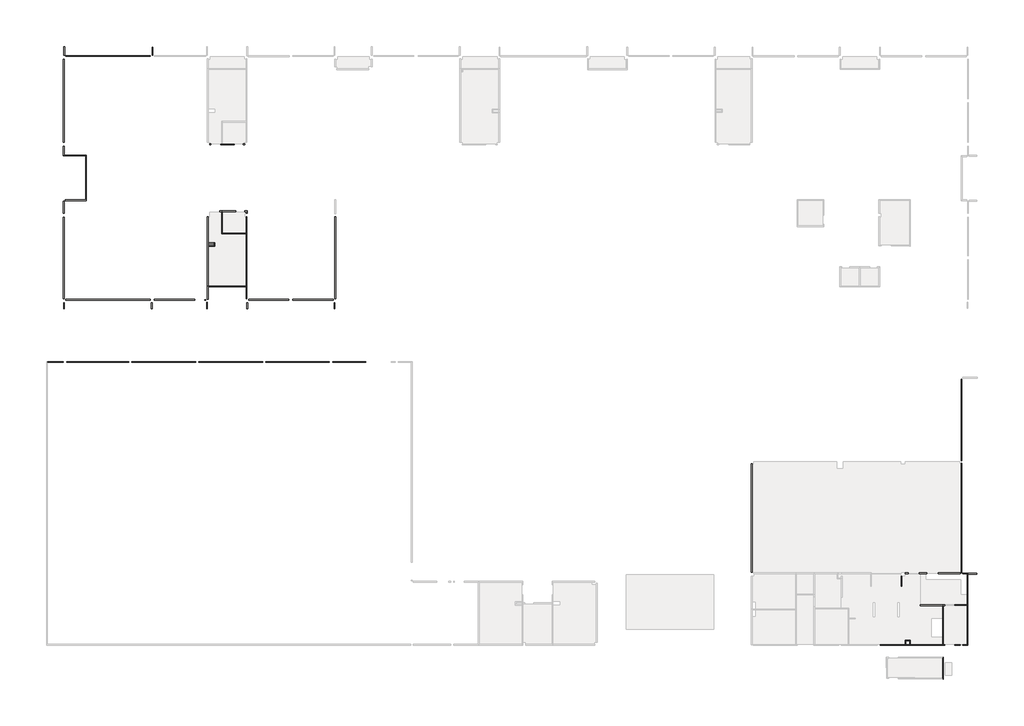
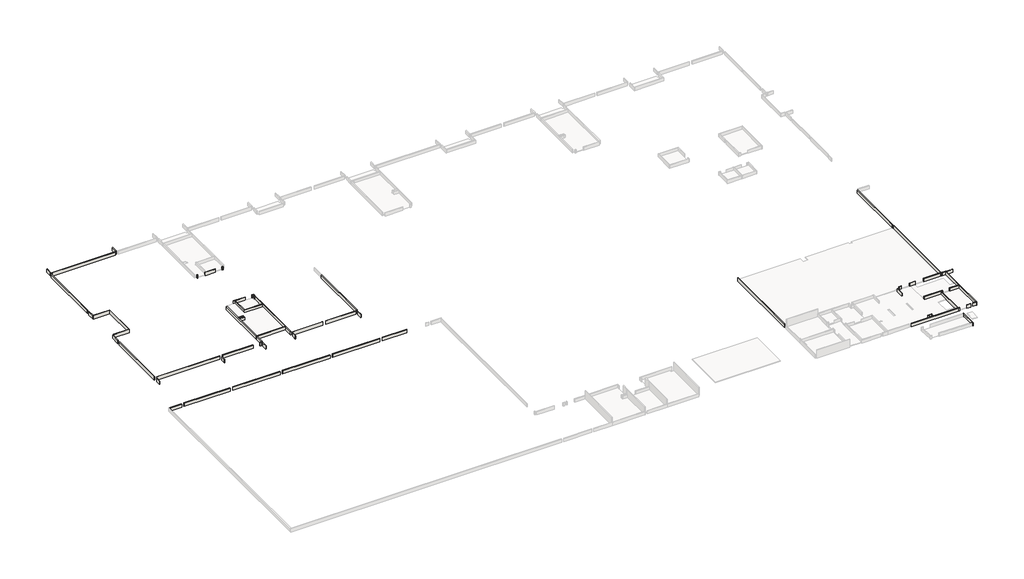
# One storey, part 2 of 4: 67 walls.
"""IFC4 building model written with IfcOpenShell, lengths in millimetres."""

from ifc_helpers import new_model, si_unit, frame, origin, place, context, project, spatial, polyline, outline, extrude, faceted_brep, element, save

model = new_model("IFC4")

# Units and contexts
model_context = context("Model", 3, world=origin())
ifc_project = project(units=[si_unit("LENGTHUNIT", "METRE", prefix="MILLI")], contexts=[model_context])

# Site, building, storey
site = spatial("IfcSite", under=ifc_project)
building = spatial("IfcBuilding", under=site)
storey = spatial("IfcBuildingStorey", under=building, Name="PLANTA DE IMPERMEABILIZAÇÃO - TERREO", Elevation=52050.0)

# Walls
placement = place(None, origin())
element("IfcWall", 1, ObjectType="Áreas frias", at=placement, inside=storey, context=model_context, shape_type="SweptSolid", body=[
    extrude(outline(polyline([(-41831.0467035, 21873.9418221), (-41706.0467035, 21873.9418221), (-41706.0467035, 21808.9418221), (-41831.0467035, 21808.9418221), (-41831.0467035, 21873.9418221)])), frame((0.0, 0.0, 52050.0), z_axis=(0.0, 0.0, 1.0), x_axis=(1.0, 0.0, 0.0)), (0.0, 0.0, 1.0), 400.0),
])
element("IfcWall", 2, ObjectType="Áreas frias", at=placement, inside=storey, context=model_context, shape_type="Brep", body=[
    faceted_brep([(-42651.0467035, 21869.3823991, 52050.0), (-43727.9504459, 21869.3823991, 52050.0), (-43792.9504459, 21869.3823991, 52050.0), (-43884.549875, 21869.3823991, 52050.0), (-43884.549875, 21869.3823991, 52450.0), (-43792.9504459, 21869.3823991, 52450.0), (-43727.9504459, 21869.3823991, 52450.0), (-42651.0467035, 21869.3823991, 52450.0), (-42651.0467035, 21804.3823991, 52050.0), (-42651.0467035, 21804.3823991, 52450.0), (-43884.549875, 21804.3823991, 52450.0), (-43884.549875, 21804.3823991, 52050.0)], [[[0, 1, 2, 3, 4, 5, 6, 7]], [[8, 9, 10, 11]], [[3, 2, 1, 0, 8, 11]], [[4, 3, 11, 10]], [[7, 6, 5, 4, 10, 9]], [[0, 7, 9, 8]]]),
])
element("IfcWall", 3, ObjectType="Áreas frias", at=placement, inside=storey, context=model_context, shape_type="SweptSolid", body=[
    extrude(outline(polyline([(-44784.549875, 21808.9418221), (-44868.0467035, 21808.9418221), (-44868.0467035, 21873.9418221), (-44784.549875, 21873.9418221), (-44784.549875, 21808.9418221)])), frame((0.0, 0.0, 52050.0), z_axis=(0.0, 0.0, 1.0), x_axis=(1.0, 0.0, 0.0)), (0.0, 0.0, 1.0), 400.0),
])
element("IfcWall", 4, ObjectType="Áreas frias", at=placement, inside=storey, context=model_context, shape_type="SweptSolid", body=[
    extrude(outline(polyline([(22860.1540592, -6671.1176009), (22860.1540592, 659.8823991), (22925.1540592, 659.8823991), (22925.1540592, -6671.1176009), (22860.1540592, -6671.1176009)])), frame((0.0, 0.0, 52050.0), z_axis=(0.0, 0.0, 1.0), x_axis=(1.0, 0.0, 0.0)), (0.0, 0.0, 1.0), 400.0),
])
element("IfcWall", 5, ObjectType="Áreas frias", at=placement, inside=storey, context=model_context, shape_type="SweptSolid", body=[
    extrude(outline(polyline([(22860.450125, -16781.1176009), (22860.450125, -6915.1176009), (22925.450125, -6915.1176009), (22925.450125, -16781.1176009), (22860.450125, -16781.1176009)])), frame((0.0, 0.0, 52050.0), z_axis=(0.0, 0.0, 1.0), x_axis=(1.0, 0.0, 0.0)), (0.0, 0.0, 1.0), 400.0),
])
element("IfcWall", 6, ObjectType="Áreas frias", at=placement, inside=storey, context=model_context, shape_type="Brep", body=[
    faceted_brep([(24287.0605113, -16830.6176009, 52050.0), (23446.950125, -16830.6176009, 52050.0), (23446.950125, -16830.6176009, 52450.0), (24287.0605113, -16830.6176009, 52450.0), (24287.0605113, -16895.6176009, 52050.0), (24287.0605113, -16895.6176009, 52450.0), (23479.450125, -16895.6176009, 52450.0), (23446.950125, -16895.6176009, 52450.0), (23446.950125, -16895.6176009, 52050.0), (23479.450125, -16895.6176009, 52050.0), (23446.950125, -16863.1176009, 52050.0), (23446.950125, -16863.1176009, 52450.0)], [[[0, 1, 2, 3]], [[4, 5, 6, 7, 8, 9]], [[1, 0, 4, 9, 8, 10]], [[2, 1, 10, 8, 7, 11]], [[3, 2, 11, 7, 6, 5]], [[0, 3, 5, 4]]]),
])
element("IfcWall", 7, ObjectType="Áreas frias", at=placement, inside=storey, context=model_context, shape_type="Brep", body=[
    faceted_brep([(23016.450125, -16863.1176009, 52050.0), (23414.450125, -16863.1176009, 52050.0), (23446.950125, -16863.1176009, 52050.0), (23446.950125, -16863.1176009, 52450.0), (23414.450125, -16863.1176009, 52450.0), (23016.450125, -16863.1176009, 52450.0), (23016.450125, -16798.1176009, 52050.0), (23016.450125, -16798.1176009, 52450.0), (23446.950125, -16798.1176009, 52450.0), (23446.950125, -16798.1176009, 52050.0), (23446.950125, -16830.6176009, 52050.0), (23446.950125, -16830.6176009, 52450.0)], [[[0, 1, 2, 3, 4, 5]], [[6, 7, 8, 9]], [[2, 1, 0, 6, 9, 10]], [[3, 2, 10, 9, 8, 11]], [[5, 4, 3, 11, 8, 7]], [[0, 5, 7, 6]]]),
])
element("IfcWall", 8, ObjectType="Áreas frias", at=placement, inside=storey, context=model_context, shape_type="Brep", body=[
    faceted_brep([(23414.450125, -16863.1176009, 52050.0), (23414.450125, -19638.4448373, 52050.0), (23414.450125, -19670.9448373, 52050.0), (23414.450125, -19670.9448373, 52450.0), (23414.450125, -19638.4448373, 52450.0), (23414.450125, -16863.1176009, 52450.0), (23479.450125, -16895.6176009, 52050.0), (23479.450125, -16895.6176009, 52450.0), (23479.450125, -19670.9448373, 52450.0), (23479.450125, -19670.9448373, 52050.0), (23446.950125, -16863.1176009, 52050.0), (23446.950125, -16895.6176009, 52050.0), (23446.950125, -16895.6176009, 52450.0), (23446.950125, -16863.1176009, 52450.0)], [[[0, 1, 2, 3, 4, 5]], [[6, 7, 8, 9]], [[2, 1, 0, 10, 11, 6, 9]], [[3, 2, 9, 8]], [[5, 4, 3, 8, 7, 12, 13]], [[0, 5, 13, 10]], [[13, 12, 11, 10]], [[12, 7, 6, 11]]]),
])
element("IfcWall", 9, ObjectType="Áreas frias", at=placement, inside=storey, context=model_context, shape_type="SweptSolid", body=[
    extrude(outline(polyline([(23016.450125, -23245.6176009), (23414.450125, -23245.6176009), (23414.450125, -23310.6176009), (23016.450125, -23310.6176009), (23016.450125, -23245.6176009)])), frame((0.0, 0.0, 52050.0), z_axis=(0.0, 0.0, 1.0), x_axis=(1.0, 0.0, 0.0)), (0.0, 0.0, 1.0), 400.0),
])
element("IfcWall", 10, ObjectType="Áreas frias", at=placement, inside=storey, context=model_context, shape_type="SweptSolid", body=[
    extrude(outline(polyline([(22269.450125, -23245.6176009), (22769.450125, -23245.6176009), (22769.450125, -23310.6176009), (22269.450125, -23310.6176009), (22269.450125, -23245.6176009)])), frame((0.0, 0.0, 52050.0), z_axis=(0.0, 0.0, 1.0), x_axis=(1.0, 0.0, 0.0)), (0.0, 0.0, 1.0), 400.0),
])
element("IfcWall", 11, ObjectType="Áreas frias", at=placement, inside=storey, context=model_context, shape_type="SweptSolid", body=[
    extrude(outline(polyline([(21260.1268114, -23245.6176009), (21400.1268114, -23245.6176009), (21400.1268114, -23310.6176009), (21260.1268114, -23310.6176009), (21260.1268114, -23245.6176009)])), frame((0.0, 0.0, 52050.0), z_axis=(0.0, 0.0, 1.0), x_axis=(1.0, 0.0, 0.0)), (0.0, 0.0, 1.0), 400.0),
])
element("IfcWall", 12, ObjectType="Áreas frias", at=placement, inside=storey, context=model_context, shape_type="SweptSolid", body=[
    extrude(outline(polyline([(21257.6268114, -19718.4448373), (21257.6268114, -23245.6176009), (21192.6268114, -23245.6176009), (21192.6268114, -19718.4448373), (21257.6268114, -19718.4448373)])), frame((0.0, 0.0, 52050.0), z_axis=(0.0, 0.0, 1.0), x_axis=(1.0, 0.0, 0.0)), (0.0, 0.0, 1.0), 400.0),
])
element("IfcWall", 13, ObjectType="Áreas frias", at=placement, inside=storey, context=model_context, shape_type="Brep", body=[
    faceted_brep([(19164.450125, -19718.4448373, 52050.0), (21192.6268114, -19718.4448373, 52050.0), (21257.6268114, -19718.4448373, 52050.0), (21404.450125, -19718.4448373, 52050.0), (21404.450125, -19718.4448373, 52450.0), (21257.6268114, -19718.4448373, 52450.0), (21192.6268114, -19718.4448373, 52450.0), (19164.450125, -19718.4448373, 52450.0), (19164.450125, -19653.4448373, 52050.0), (19164.450125, -19653.4448373, 52450.0), (21404.450125, -19653.4448373, 52450.0), (21404.450125, -19653.4448373, 52050.0)], [[[0, 1, 2, 3, 4, 5, 6, 7]], [[8, 9, 10, 11]], [[3, 2, 1, 0, 8, 11]], [[4, 3, 11, 10]], [[7, 6, 5, 4, 10, 9]], [[0, 7, 9, 8]]]),
])
element("IfcWall", 14, ObjectType="Áreas frias", at=placement, inside=storey, context=model_context, shape_type="Brep", body=[
    faceted_brep([(22270.1268114, -19703.4448373, 52050.0), (23414.450125, -19703.4448373, 52050.0), (23414.450125, -19703.4448373, 52450.0), (22270.1268114, -19703.4448373, 52450.0), (22270.1268114, -19638.4448373, 52050.0), (22270.1268114, -19638.4448373, 52450.0), (23414.450125, -19638.4448373, 52450.0), (23414.450125, -19638.4448373, 52050.0), (23414.450125, -19670.9448373, 52050.0), (23414.450125, -19670.9448373, 52450.0)], [[[0, 1, 2, 3]], [[4, 5, 6, 7]], [[1, 0, 4, 7, 8]], [[3, 2, 9, 6, 5]], [[0, 3, 5, 4]], [[2, 1, 8, 7, 6, 9]]]),
])
element("IfcWall", 15, ObjectType="Áreas frias", at=placement, inside=storey, context=model_context, shape_type="SweptSolid", body=[
    extrude(outline(polyline([(20777.4501614, -16780.6176009), (22769.450125, -16780.6176009), (22769.450125, -16845.6176009), (20777.4501614, -16845.6176009), (20777.4501614, -16780.6176009)])), frame((0.0, 0.0, 52050.0), z_axis=(0.0, 0.0, 1.0), x_axis=(1.0, 0.0, 0.0)), (0.0, 0.0, 1.0), 400.0),
])
element("IfcWall", 16, ObjectType="Áreas frias", at=placement, inside=storey, context=model_context, shape_type="SweptSolid", body=[
    extrude(outline(polyline([(19064.450125, -16780.6176009), (19764.450125, -16780.6176009), (19764.450125, -16845.6176009), (19064.450125, -16845.6176009), (19064.450125, -16780.6176009)])), frame((0.0, 0.0, 52050.0), z_axis=(0.0, 0.0, 1.0), x_axis=(1.0, 0.0, 0.0)), (0.0, 0.0, 1.0), 400.0),
])
element("IfcWall", 17, ObjectType="Áreas frias", at=placement, inside=storey, context=model_context, shape_type="SweptSolid", body=[
    extrude(outline(polyline([(17814.4532965, -16778.1176009), (18077.4501614, -16778.1176009), (18077.4501614, -16843.1176009), (17814.4532965, -16843.1176009), (17814.4532965, -16778.1176009)])), frame((0.0, 0.0, 52050.0), z_axis=(0.0, 0.0, 1.0), x_axis=(1.0, 0.0, 0.0)), (0.0, 0.0, 1.0), 400.0),
])
element("IfcWall", 18, ObjectType="Áreas frias", at=placement, inside=storey, context=model_context, shape_type="SweptSolid", body=[
    extrude(outline(polyline([(17507.950125, -17078.2862782), (17507.950125, -17998.2862782), (17442.950125, -17998.2862782), (17442.950125, -17078.2862782), (17507.950125, -17078.2862782)])), frame((0.0, 0.0, 52050.0), z_axis=(0.0, 0.0, 1.0), x_axis=(1.0, 0.0, 0.0)), (0.0, 0.0, 1.0), 400.0),
])
element("IfcWall", 19, ObjectType="Áreas frias", at=placement, inside=storey, context=model_context, shape_type="SweptSolid", body=[
    extrude(outline(polyline([(3962.9532965, -16731.6176009), (3962.9532965, -6964.6176009), (4027.9532965, -6964.6176009), (4027.9532965, -16731.6176009), (3962.9532965, -16731.6176009)])), frame((0.0, 0.0, 52050.0), z_axis=(0.0, 0.0, 1.0), x_axis=(1.0, 0.0, 0.0)), (0.0, 0.0, 1.0), 400.0),
])
element("IfcWall", 20, ObjectType="Áreas frias", at=placement, inside=storey, context=model_context, shape_type="Brep", body=[
    faceted_brep([(21268.6897778, -26378.2878145, 52050.0), (21268.6897778, -24372.6344712, 52050.0), (21268.6897778, -24372.6344712, 52450.0), (21268.6897778, -26378.2878145, 52450.0), (21203.6897778, -26376.9940032, 52050.0), (21203.6897778, -26376.9940032, 52450.0), (21203.6897778, -26311.981128, 52450.0), (21203.6897778, -24437.6344712, 52450.0), (21203.6897778, -24372.6344712, 52450.0), (21203.6897778, -24372.6344712, 52050.0), (21203.6897778, -24437.6344712, 52050.0), (21203.6897778, -26311.981128, 52050.0)], [[[0, 1, 2, 3]], [[4, 5, 6, 7, 8, 9, 10, 11]], [[1, 0, 4, 11, 10, 9]], [[3, 2, 8, 7, 6, 5]], [[2, 1, 9, 8]], [[0, 3, 5, 4]]]),
])
element("IfcWall", 21, ObjectType="Áreas frias", at=placement, inside=storey, context=model_context, shape_type="SweptSolid", body=[
    extrude(outline(polyline([(-58057.2215023, 2201.8823991), (-59500.0498836, 2201.8823991), (-59500.0498836, 2266.8823991), (-58057.2215023, 2266.8823991), (-58057.2215023, 2201.8823991)])), frame((0.0, 0.0, 52050.0), z_axis=(0.0, 0.0, 1.0), x_axis=(1.0, 0.0, 0.0)), (0.0, 0.0, 1.0), 400.0),
])
element("IfcWall", 22, ObjectType="Áreas frias", at=placement, inside=storey, context=model_context, shape_type="SweptSolid", body=[
    extrude(outline(polyline([(-52173.9804353, 2201.8823991), (-57751.2215023, 2201.8823991), (-57751.2215023, 2266.8823991), (-52173.9804353, 2266.8823991), (-52173.9804353, 2201.8823991)])), frame((0.0, 0.0, 52050.0), z_axis=(0.0, 0.0, 1.0), x_axis=(1.0, 0.0, 0.0)), (0.0, 0.0, 1.0), 400.0),
])
element("IfcWall", 23, ObjectType="Áreas frias", at=placement, inside=storey, context=model_context, shape_type="SweptSolid", body=[
    extrude(outline(polyline([(-46137.9804353, 2189.3823991), (-51877.9804353, 2189.3823991), (-51877.9804353, 2254.3823991), (-46137.9804353, 2254.3823991), (-46137.9804353, 2189.3823991)])), frame((0.0, 0.0, 52050.0), z_axis=(0.0, 0.0, 1.0), x_axis=(1.0, 0.0, 0.0)), (0.0, 0.0, 1.0), 400.0),
])
element("IfcWall", 24, ObjectType="Áreas frias", at=placement, inside=storey, context=model_context, shape_type="SweptSolid", body=[
    extrude(outline(polyline([(-40095.4672223, 2189.3823991), (-45838.7252723, 2189.3823991), (-45838.7252723, 2254.3823991), (-40095.4672223, 2254.3823991), (-40095.4672223, 2189.3823991)])), frame((0.0, 0.0, 52050.0), z_axis=(0.0, 0.0, 1.0), x_axis=(1.0, 0.0, 0.0)), (0.0, 0.0, 1.0), 400.0),
])
element("IfcWall", 25, ObjectType="Áreas frias", at=placement, inside=storey, context=model_context, shape_type="SweptSolid", body=[
    extrude(outline(polyline([(-34066.2149623, 2189.3823991), (-39799.4672223, 2189.3823991), (-39799.4672223, 2254.3823991), (-34066.2149623, 2254.3823991), (-34066.2149623, 2189.3823991)])), frame((0.0, 0.0, 52050.0), z_axis=(0.0, 0.0, 1.0), x_axis=(1.0, 0.0, 0.0)), (0.0, 0.0, 1.0), 400.0),
])
element("IfcWall", 26, ObjectType="Áreas frias", at=placement, inside=storey, context=model_context, shape_type="SweptSolid", body=[
    extrude(outline(polyline([(-30799.549875, 2189.3823991), (-33760.2149623, 2189.3823991), (-33760.2149623, 2254.3823991), (-30799.549875, 2254.3823991), (-30799.549875, 2189.3823991)])), frame((0.0, 0.0, 52050.0), z_axis=(0.0, 0.0, 1.0), x_axis=(1.0, 0.0, 0.0)), (0.0, 0.0, 1.0), 400.0),
])
element("IfcWall", 27, ObjectType="Áreas frias", at=placement, inside=storey, context=model_context, shape_type="SweptSolid", body=[
    extrude(outline(polyline([(-57947.049875, 7560.4421108), (-57947.049875, 7010.5733494), (-58012.049875, 7010.5733494), (-58012.049875, 7560.4421108), (-57947.049875, 7560.4421108)])), frame((0.0, 0.0, 52050.0), z_axis=(0.0, 0.0, 1.0), x_axis=(1.0, 0.0, 0.0)), (0.0, 0.0, 1.0), 400.0),
])
element("IfcWall", 28, ObjectType="Áreas frias", at=placement, inside=storey, context=model_context, shape_type="SweptSolid", body=[
    extrude(outline(polyline([(-50202.0467035, 7806.7823992), (-57832.049875, 7806.7823992), (-57832.049875, 7871.7823992), (-50202.0467035, 7871.7823992), (-50202.0467035, 7806.7823992)])), frame((0.0, 0.0, 52050.0), z_axis=(0.0, 0.0, 1.0), x_axis=(1.0, 0.0, 0.0)), (0.0, 0.0, 1.0), 400.0),
])
element("IfcWall", 29, ObjectType="Áreas frias", at=placement, inside=storey, context=model_context, shape_type="SweptSolid", body=[
    extrude(outline(polyline([(-50054.049875, 7585.4421108), (-50054.049875, 7010.5733494), (-50119.049875, 7010.5733494), (-50119.049875, 7585.4421108), (-50054.049875, 7585.4421108)])), frame((0.0, 0.0, 52050.0), z_axis=(0.0, 0.0, 1.0), x_axis=(1.0, 0.0, 0.0)), (0.0, 0.0, 1.0), 400.0),
])
element("IfcWall", 30, ObjectType="Áreas frias", at=placement, inside=storey, context=model_context, shape_type="SweptSolid", body=[
    extrude(outline(polyline([(-46189.0467035, 7806.7823992), (-49854.0467035, 7806.7823992), (-49854.0467035, 7871.7823992), (-46189.0467035, 7871.7823992), (-46189.0467035, 7806.7823992)])), frame((0.0, 0.0, 52050.0), z_axis=(0.0, 0.0, 1.0), x_axis=(1.0, 0.0, 0.0)), (0.0, 0.0, 1.0), 400.0),
])
element("IfcWall", 31, ObjectType="Áreas frias", at=placement, inside=storey, context=model_context, shape_type="SweptSolid", body=[
    extrude(outline(polyline([(-45195.9497551, 7791.7823991), (-45315.9497551, 7791.7823991), (-45315.9497551, 7856.7823991), (-45195.9497551, 7856.7823991), (-45195.9497551, 7791.7823991)])), frame((0.0, 0.0, 52050.0), z_axis=(0.0, 0.0, 1.0), x_axis=(1.0, 0.0, 0.0)), (0.0, 0.0, 1.0), 400.0),
])
element("IfcWall", 32, ObjectType="Áreas frias", at=placement, inside=storey, context=model_context, shape_type="SweptSolid", body=[
    extrude(outline(polyline([(-45064.549875, 7609.9421108), (-45064.549875, 7010.5733494), (-45129.549875, 7010.5733494), (-45129.549875, 7609.9421108), (-45064.549875, 7609.9421108)])), frame((0.0, 0.0, 52050.0), z_axis=(0.0, 0.0, 1.0), x_axis=(1.0, 0.0, 0.0)), (0.0, 0.0, 1.0), 400.0),
])
element("IfcWall", 33, ObjectType="Áreas frias", at=placement, inside=storey, context=model_context, shape_type="Brep", body=[
    faceted_brep([(-45007.0467035, 7903.9421108, 52050.0), (-45007.0467035, 9010.2823991, 52050.0), (-45007.0467035, 9042.7823991, 52050.0), (-45007.0467035, 9042.7823991, 52450.0), (-45007.0467035, 9010.2823991, 52450.0), (-45007.0467035, 7903.9421108, 52450.0), (-45072.0467035, 7903.9421108, 52050.0), (-45072.0467035, 7903.9421108, 52450.0), (-45072.0467035, 9042.7823991, 52450.0), (-45072.0467035, 9042.7823991, 52050.0)], [[[0, 1, 2, 3, 4, 5]], [[6, 7, 8, 9]], [[2, 1, 0, 6, 9]], [[3, 2, 9, 8]], [[5, 4, 3, 8, 7]], [[0, 5, 7, 6]]]),
])
element("IfcWall", 34, ObjectType="Áreas frias", at=placement, inside=storey, context=model_context, shape_type="Brep", body=[
    faceted_brep([(-45007.0467035, 9010.2823991, 52050.0), (-41577.049875, 9010.2823991, 52050.0), (-41577.049875, 9010.2823991, 52450.0), (-45007.0467035, 9010.2823991, 52450.0), (-45007.0467035, 9075.2823991, 52050.0), (-45007.0467035, 9075.2823991, 52450.0), (-41577.049875, 9075.2823991, 52450.0), (-41577.049875, 9075.2823991, 52050.0), (-45007.0467035, 9042.7823991, 52050.0), (-41577.049875, 9042.7823991, 52050.0), (-41577.049875, 9042.7823991, 52450.0), (-45007.0467035, 9042.7823991, 52450.0)], [[[0, 1, 2, 3]], [[4, 5, 6, 7]], [[1, 0, 8, 4, 7, 9]], [[3, 2, 10, 6, 5, 11]], [[0, 3, 11, 5, 4, 8]], [[2, 1, 9, 7, 6, 10]]]),
])
element("IfcWall", 35, ObjectType="Áreas frias", at=placement, inside=storey, context=model_context, shape_type="Brep", body=[
    faceted_brep([(-41512.049875, 7938.4421108, 52050.0), (-41512.049875, 9042.7823991, 52050.0), (-41512.049875, 9042.7823991, 52450.0), (-41512.049875, 7938.4421108, 52450.0), (-41577.049875, 7938.4421108, 52050.0), (-41577.049875, 7938.4421108, 52450.0), (-41577.049875, 9010.2823991, 52450.0), (-41577.049875, 9042.7823991, 52450.0), (-41577.049875, 9042.7823991, 52050.0), (-41577.049875, 9010.2823991, 52050.0)], [[[0, 1, 2, 3]], [[4, 5, 6, 7, 8, 9]], [[1, 0, 4, 9, 8]], [[2, 1, 8, 7]], [[3, 2, 7, 6, 5]], [[0, 3, 5, 4]]]),
])
element("IfcWall", 36, ObjectType="Áreas frias", at=placement, inside=storey, context=model_context, shape_type="Brep", body=[
    faceted_brep([(-41577.049875, 13830.2823991, 52050.0), (-43727.9504459, 13830.2823991, 52050.0), (-43792.9504459, 13830.2823991, 52050.0), (-43792.9504459, 13830.2823991, 52450.0), (-43727.9504459, 13830.2823991, 52450.0), (-41577.049875, 13830.2823991, 52450.0), (-41577.049875, 13765.2823991, 52050.0), (-41577.049875, 13765.2823991, 52450.0), (-43792.9504459, 13765.2823991, 52450.0), (-43792.9504459, 13765.2823991, 52050.0), (-41577.049875, 13797.7823991, 52050.0), (-41577.049875, 13797.7823991, 52450.0)], [[[0, 1, 2, 3, 4, 5]], [[6, 7, 8, 9]], [[2, 1, 0, 10, 6, 9]], [[5, 4, 3, 8, 7, 11]], [[0, 5, 11, 7, 6, 10]], [[3, 2, 9, 8]]]),
])
element("IfcWall", 37, ObjectType="Áreas frias", at=placement, inside=storey, context=model_context, shape_type="Brep", body=[
    faceted_brep([(-43727.9504459, 13830.2823991, 52050.0), (-43727.9504459, 15774.3823991, 52050.0), (-43727.9504459, 15774.3823991, 52450.0), (-43727.9504459, 13830.2823991, 52450.0), (-43792.9504459, 13830.2823991, 52050.0), (-43792.9504459, 13830.2823991, 52450.0), (-43792.9504459, 15774.3823991, 52450.0), (-43792.9504459, 15774.3823991, 52050.0), (-43760.4504459, 15774.3823991, 52050.0), (-43760.4504459, 15774.3823991, 52450.0)], [[[0, 1, 2, 3]], [[4, 5, 6, 7]], [[1, 0, 4, 7, 8]], [[3, 2, 9, 6, 5]], [[0, 3, 5, 4]], [[2, 1, 8, 7, 6, 9]]]),
])
element("IfcWall", 38, ObjectType="Áreas frias", at=placement, inside=storey, context=model_context, shape_type="Brep", body=[
    faceted_brep([(-43969.549875, 15774.3823991, 52050.0), (-43792.9504459, 15774.3823991, 52050.0), (-43760.4504459, 15774.3823991, 52050.0), (-43760.4504459, 15774.3823991, 52450.0), (-43792.9504459, 15774.3823991, 52450.0), (-43969.549875, 15774.3823991, 52450.0), (-43969.549875, 15839.3823991, 52050.0), (-43969.549875, 15839.3823991, 52450.0), (-43760.4504459, 15839.3823991, 52450.0), (-43760.4504459, 15839.3823991, 52050.0)], [[[0, 1, 2, 3, 4, 5]], [[6, 7, 8, 9]], [[2, 1, 0, 6, 9]], [[3, 2, 9, 8]], [[5, 4, 3, 8, 7]], [[0, 5, 7, 6]]]),
])
element("IfcWall", 39, ObjectType="Áreas frias", at=placement, inside=storey, context=model_context, shape_type="Brep", body=[
    faceted_brep([(-41704.549875, 15774.3823991, 52050.0), (-41552.049875, 15774.3823991, 52050.0), (-41487.049875, 15774.3823991, 52050.0), (-41487.049875, 15774.3823991, 52450.0), (-41552.049875, 15774.3823991, 52450.0), (-41704.549875, 15774.3823991, 52450.0), (-41704.549875, 15839.3823991, 52050.0), (-41704.549875, 15839.3823991, 52450.0), (-41487.049875, 15839.3823991, 52450.0), (-41487.049875, 15839.3823991, 52050.0)], [[[0, 1, 2, 3, 4, 5]], [[6, 7, 8, 9]], [[2, 1, 0, 6, 9]], [[5, 4, 3, 8, 7]], [[0, 5, 7, 6]], [[3, 2, 9, 8]]]),
])
element("IfcWall", 40, ObjectType="Áreas frias", at=placement, inside=storey, context=model_context, shape_type="SweptSolid", body=[
    extrude(outline(polyline([(-41552.049875, 15611.8823991), (-41552.049875, 15774.3823991), (-41487.049875, 15774.3823991), (-41487.049875, 15611.8823991), (-41552.049875, 15611.8823991)])), frame((0.0, 0.0, 52050.0), z_axis=(0.0, 0.0, 1.0), x_axis=(1.0, 0.0, 0.0)), (0.0, 0.0, 1.0), 400.0),
])
element("IfcWall", 41, ObjectType="Áreas frias", at=placement, inside=storey, context=model_context, shape_type="SweptSolid", body=[
    extrude(outline(polyline([(-41444.549875, 7585.4421108), (-41444.549875, 7030.5733494), (-41509.549875, 7030.5733494), (-41509.549875, 7585.4421108), (-41444.549875, 7585.4421108)])), frame((0.0, 0.0, 52050.0), z_axis=(0.0, 0.0, 1.0), x_axis=(1.0, 0.0, 0.0)), (0.0, 0.0, 1.0), 400.0),
])
element("IfcWall", 42, ObjectType="Áreas frias", at=placement, inside=storey, context=model_context, shape_type="SweptSolid", body=[
    extrude(outline(polyline([(-37723.5467035, 7804.2823991), (-41360.5467035, 7804.2823991), (-41360.5467035, 7869.2823991), (-37723.5467035, 7869.2823991), (-37723.5467035, 7804.2823991)])), frame((0.0, 0.0, 52050.0), z_axis=(0.0, 0.0, 1.0), x_axis=(1.0, 0.0, 0.0)), (0.0, 0.0, 1.0), 400.0),
])
element("IfcWall", 43, ObjectType="Áreas frias", at=placement, inside=storey, context=model_context, shape_type="SweptSolid", body=[
    extrude(outline(polyline([(-33728.5467035, 7804.2823991), (-37355.5467035, 7804.2823991), (-37355.5467035, 7869.2823991), (-33728.5467035, 7869.2823991), (-33728.5467035, 7804.2823991)])), frame((0.0, 0.0, 52050.0), z_axis=(0.0, 0.0, 1.0), x_axis=(1.0, 0.0, 0.0)), (0.0, 0.0, 1.0), 400.0),
])
element("IfcWall", 44, ObjectType="Áreas frias", at=placement, inside=storey, context=model_context, shape_type="SweptSolid", body=[
    extrude(outline(polyline([(-33569.549875, 7585.4421108), (-33569.549875, 7010.5733494), (-33634.549875, 7010.5733494), (-33634.549875, 7585.4421108), (-33569.549875, 7585.4421108)])), frame((0.0, 0.0, 52050.0), z_axis=(0.0, 0.0, 1.0), x_axis=(1.0, 0.0, 0.0)), (0.0, 0.0, 1.0), 400.0),
])
element("IfcWall", 45, ObjectType="Áreas frias", at=placement, inside=storey, context=model_context, shape_type="SweptSolid", body=[
    extrude(outline(polyline([(-33512.0467035, 15301.8823991), (-33512.0467035, 7928.4421108), (-33577.0467035, 7928.4421108), (-33577.0467035, 15301.8823991), (-33512.0467035, 15301.8823991)])), frame((0.0, 0.0, 52050.0), z_axis=(0.0, 0.0, 1.0), x_axis=(1.0, 0.0, 0.0)), (0.0, 0.0, 1.0), 400.0),
])
element("IfcWall", 46, ObjectType="Áreas frias", at=placement, inside=storey, context=model_context, shape_type="SweptSolid", body=[
    extrude(outline(polyline([(-57986.9215023, 15277.8823991), (-57986.9215023, 7930.9421108), (-58051.9215023, 7930.9421108), (-58051.9215023, 15277.8823991), (-57986.9215023, 15277.8823991)])), frame((0.0, 0.0, 52050.0), z_axis=(0.0, 0.0, 1.0), x_axis=(1.0, 0.0, 0.0)), (0.0, 0.0, 1.0), 400.0),
])
element("IfcWall", 47, ObjectType="Áreas frias", at=placement, inside=storey, context=model_context, shape_type="SweptSolid", body=[
    extrude(outline(polyline([(-57986.9215023, 16713.3823991), (-57986.9215023, 15615.8823991), (-58051.9215023, 15615.8823991), (-58051.9215023, 16713.3823991), (-57986.9215023, 16713.3823991)])), frame((0.0, 0.0, 52050.0), z_axis=(0.0, 0.0, 1.0), x_axis=(1.0, 0.0, 0.0)), (0.0, 0.0, 1.0), 400.0),
])
element("IfcWall", 48, ObjectType="Áreas frias", at=placement, inside=storey, context=model_context, shape_type="Brep", body=[
    faceted_brep([(-57897.4215023, 16765.8823991, 52050.0), (-55984.9215023, 16765.8823991, 52050.0), (-55984.9215023, 16765.8823991, 52450.0), (-57897.4215023, 16765.8823991, 52450.0), (-57897.4215023, 16830.8823991, 52050.0), (-57897.4215023, 16830.8823991, 52450.0), (-56049.9215023, 16830.8823991, 52450.0), (-55984.9215023, 16830.8823991, 52450.0), (-55984.9215023, 16830.8823991, 52050.0), (-56049.9215023, 16830.8823991, 52050.0)], [[[0, 1, 2, 3]], [[4, 5, 6, 7, 8, 9]], [[1, 0, 4, 9, 8]], [[3, 2, 7, 6, 5]], [[0, 3, 5, 4]], [[2, 1, 8, 7]]]),
])
element("IfcWall", 49, ObjectType="Áreas frias", at=placement, inside=storey, context=model_context, shape_type="Brep", body=[
    faceted_brep([(-55984.9215023, 16830.8823991, 52050.0), (-55984.9215023, 20870.8823991, 52050.0), (-55984.9215023, 20870.8823991, 52450.0), (-55984.9215023, 16830.8823991, 52450.0), (-56049.9215023, 16830.8823991, 52050.0), (-56049.9215023, 16830.8823991, 52450.0), (-56049.9215023, 20805.8823991, 52450.0), (-56049.9215023, 20870.8823991, 52450.0), (-56049.9215023, 20870.8823991, 52050.0), (-56049.9215023, 20805.8823991, 52050.0)], [[[0, 1, 2, 3]], [[4, 5, 6, 7, 8, 9]], [[1, 0, 4, 9, 8]], [[3, 2, 7, 6, 5]], [[0, 3, 5, 4]], [[2, 1, 8, 7]]]),
])
element("IfcWall", 50, ObjectType="Áreas frias", at=placement, inside=storey, context=model_context, shape_type="Brep", body=[
    faceted_brep([(-56049.9215023, 20870.8823991, 52050.0), (-57984.9215023, 20870.8823991, 52050.0), (-58049.9215023, 20870.8823991, 52050.0), (-58049.9215023, 20870.8823991, 52450.0), (-57984.9215023, 20870.8823991, 52450.0), (-56049.9215023, 20870.8823991, 52450.0), (-56049.9215023, 20805.8823991, 52050.0), (-56049.9215023, 20805.8823991, 52450.0), (-58049.9215023, 20805.8823991, 52450.0), (-58049.9215023, 20805.8823991, 52050.0)], [[[0, 1, 2, 3, 4, 5]], [[6, 7, 8, 9]], [[2, 1, 0, 6, 9]], [[5, 4, 3, 8, 7]], [[0, 5, 7, 6]], [[3, 2, 9, 8]]]),
])
element("IfcWall", 51, ObjectType="Áreas frias", at=placement, inside=storey, context=model_context, shape_type="SweptSolid", body=[
    extrude(outline(polyline([(-57984.9215023, 21667.4418221), (-57984.9215023, 20870.8823991), (-58049.9215023, 20870.8823991), (-58049.9215023, 21667.4418221), (-57984.9215023, 21667.4418221)])), frame((0.0, 0.0, 52050.0), z_axis=(0.0, 0.0, 1.0), x_axis=(1.0, 0.0, 0.0)), (0.0, 0.0, 1.0), 400.0),
])
element("IfcWall", 52, ObjectType="Áreas frias", at=placement, inside=storey, context=model_context, shape_type="SweptSolid", body=[
    extrude(outline(polyline([(-57986.9215023, 29526.7226879), (-57986.9215023, 22015.4418221), (-58051.9215023, 22015.4418221), (-58051.9215023, 29526.7226879), (-57986.9215023, 29526.7226879)])), frame((0.0, 0.0, 52050.0), z_axis=(0.0, 0.0, 1.0), x_axis=(1.0, 0.0, 0.0)), (0.0, 0.0, 1.0), 400.0),
])
element("IfcWall", 53, ObjectType="Áreas frias", at=placement, inside=storey, context=model_context, shape_type="SweptSolid", body=[
    extrude(outline(polyline([(-57929.549875, 30656.8823997), (-57929.549875, 29876.7226879), (-57994.549875, 29876.7226879), (-57994.549875, 30656.8823997), (-57929.549875, 30656.8823997)])), frame((0.0, 0.0, 52050.0), z_axis=(0.0, 0.0, 1.0), x_axis=(1.0, 0.0, 0.0)), (0.0, 0.0, 1.0), 400.0),
])
element("IfcWall", 54, ObjectType="Áreas frias", at=placement, inside=storey, context=model_context, shape_type="SweptSolid", body=[
    extrude(outline(polyline([(-50203.1865458, 29771.8823991), (-57835.4215023, 29771.8823991), (-57835.4215023, 29836.8823991), (-50203.1865458, 29836.8823991), (-50203.1865458, 29771.8823991)])), frame((0.0, 0.0, 52050.0), z_axis=(0.0, 0.0, 1.0), x_axis=(1.0, 0.0, 0.0)), (0.0, 0.0, 1.0), 400.0),
])
element("IfcWall", 55, ObjectType="Áreas frias", at=placement, inside=storey, context=model_context, shape_type="SweptSolid", body=[
    extrude(outline(polyline([(-49995.6865458, 30610.7349301), (-49995.6865458, 29875.7349301), (-50060.6865458, 29875.7349301), (-50060.6865458, 30610.7349301), (-49995.6865458, 30610.7349301)])), frame((0.0, 0.0, 52050.0), z_axis=(0.0, 0.0, 1.0), x_axis=(1.0, 0.0, 0.0)), (0.0, 0.0, 1.0), 400.0),
])
element("IfcWall", 56, ObjectType="Áreas frias", at=placement, inside=storey, context=model_context, shape_type="Brep", body=[
    faceted_brep([(23414.450125, -19670.9448373, 52050.0), (23414.450125, -19703.4448373, 52050.0), (23414.450125, -23245.6176009, 52050.0), (23414.450125, -23310.6176009, 52050.0), (23414.450125, -23310.6176009, 52450.0), (23414.450125, -23245.6176009, 52450.0), (23414.450125, -19703.4448373, 52450.0), (23414.450125, -19670.9448373, 52450.0), (23479.450125, -19670.9448373, 52050.0), (23479.450125, -19670.9448373, 52450.0), (23479.450125, -23310.6176009, 52450.0), (23479.450125, -23310.6176009, 52050.0)], [[[0, 1, 2, 3, 4, 5, 6, 7]], [[8, 9, 10, 11]], [[3, 2, 1, 0, 8, 11]], [[7, 6, 5, 4, 10, 9]], [[0, 7, 9, 8]], [[4, 3, 11, 10]]]),
])
element("IfcWall", 57, ObjectType="Áreas frias", at=placement, inside=storey, context=model_context, shape_type="Brep", body=[
    faceted_brep([(21260.1268114, -23245.6176009, 52050.0), (21257.6268114, -23245.6176009, 52050.0), (21192.6268114, -23245.6176009, 52050.0), (15563.6299829, -23245.6176009, 52050.0), (15563.6299829, -23245.6176009, 52450.0), (21192.6268114, -23245.6176009, 52450.0), (21257.6268114, -23245.6176009, 52450.0), (21260.1268114, -23245.6176009, 52450.0), (21260.1268114, -23310.6176009, 52050.0), (21260.1268114, -23310.6176009, 52450.0), (15563.6299829, -23310.6176009, 52450.0), (15563.6299829, -23310.6176009, 52050.0)], [[[0, 1, 2, 3, 4, 5, 6, 7]], [[8, 9, 10, 11]], [[3, 2, 1, 0, 8, 11]], [[4, 3, 11, 10]], [[7, 6, 5, 4, 10, 9]], [[0, 7, 9, 8]]]),
])
element("IfcWall", 58, ObjectType="Áreas frias", at=placement, inside=storey, context=model_context, shape_type="Brep", body=[
    faceted_brep([(17872.950125, -23223.1176009, 52050.0), (17872.950125, -22900.6176009, 52050.0), (17872.950125, -22835.6176009, 52050.0), (17872.950125, -22835.6176009, 52450.0), (17872.950125, -22900.6176009, 52450.0), (17872.950125, -23223.1176009, 52450.0), (17807.950125, -23223.1176009, 52050.0), (17807.950125, -23223.1176009, 52450.0), (17807.950125, -22835.6176009, 52450.0), (17807.950125, -22835.6176009, 52050.0)], [[[0, 1, 2, 3, 4, 5]], [[6, 7, 8, 9]], [[2, 1, 0, 6, 9]], [[5, 4, 3, 8, 7]], [[0, 5, 7, 6]], [[3, 2, 9, 8]]]),
])
element("IfcWall", 59, ObjectType="Áreas frias", at=placement, inside=storey, context=model_context, shape_type="Brep", body=[
    faceted_brep([(17872.950125, -22900.6176009, 52050.0), (18217.950125, -22900.6176009, 52050.0), (18282.950125, -22900.6176009, 52050.0), (18282.950125, -22900.6176009, 52450.0), (18217.950125, -22900.6176009, 52450.0), (17872.950125, -22900.6176009, 52450.0), (17872.950125, -22835.6176009, 52050.0), (17872.950125, -22835.6176009, 52450.0), (18282.950125, -22835.6176009, 52450.0), (18282.950125, -22835.6176009, 52050.0)], [[[0, 1, 2, 3, 4, 5]], [[6, 7, 8, 9]], [[2, 1, 0, 6, 9]], [[5, 4, 3, 8, 7]], [[0, 5, 7, 6]], [[3, 2, 9, 8]]]),
])
element("IfcWall", 60, ObjectType="Áreas frias", at=placement, inside=storey, context=model_context, shape_type="SweptSolid", body=[
    extrude(outline(polyline([(18217.950125, -23223.1176009), (18217.950125, -22900.6176009), (18282.950125, -22900.6176009), (18282.950125, -23223.1176009), (18217.950125, -23223.1176009)])), frame((0.0, 0.0, 52050.0), z_axis=(0.0, 0.0, 1.0), x_axis=(1.0, 0.0, 0.0)), (0.0, 0.0, 1.0), 400.0),
])
element("IfcWall", 61, ObjectType="Áreas frias", at=placement, inside=storey, context=model_context, shape_type="Brep", body=[
    faceted_brep([(-41512.049875, 13797.7823991, 52050.0), (-41512.049875, 15298.4421108, 52050.0), (-41512.049875, 15298.4421108, 52450.0), (-41512.049875, 13797.7823991, 52450.0), (-41577.049875, 13797.7823991, 52050.0), (-41577.049875, 13797.7823991, 52450.0), (-41577.049875, 13830.2823991, 52450.0), (-41577.049875, 15298.4421108, 52450.0), (-41577.049875, 15298.4421108, 52050.0), (-41577.049875, 13830.2823991, 52050.0)], [[[0, 1, 2, 3]], [[4, 5, 6, 7, 8, 9]], [[1, 0, 4, 9, 8]], [[2, 1, 8, 7]], [[3, 2, 7, 6, 5]], [[0, 3, 5, 4]]]),
])
element("IfcWall", 62, ObjectType="Áreas frias", at=placement, inside=storey, context=model_context, shape_type="Brep", body=[
    faceted_brep([(-43760.4504459, 15774.3823991, 52050.0), (-43727.9504459, 15774.3823991, 52050.0), (-42524.549875, 15774.3823991, 52050.0), (-42524.549875, 15774.3823991, 52450.0), (-43727.9504459, 15774.3823991, 52450.0), (-43760.4504459, 15774.3823991, 52450.0), (-43760.4504459, 15839.3823991, 52050.0), (-43760.4504459, 15839.3823991, 52450.0), (-42524.549875, 15839.3823991, 52450.0), (-42524.549875, 15839.3823991, 52050.0)], [[[0, 1, 2, 3, 4, 5]], [[6, 7, 8, 9]], [[2, 1, 0, 6, 9]], [[3, 2, 9, 8]], [[5, 4, 3, 8, 7]], [[0, 5, 7, 6]]]),
])
element("IfcWall", 63, ObjectType="Áreas frias", at=placement, inside=storey, context=model_context, shape_type="Brep", body=[
    faceted_brep([(-44997.049875, 12660.2823991, 52050.0), (-44389.549875, 12660.2823991, 52050.0), (-44389.549875, 12660.2823991, 52450.0), (-44997.049875, 12660.2823991, 52450.0), (-44997.049875, 12725.2823991, 52050.0), (-44997.049875, 12725.2823991, 52450.0), (-44454.549875, 12725.2823991, 52450.0), (-44389.549875, 12725.2823991, 52450.0), (-44389.549875, 12725.2823991, 52050.0), (-44454.549875, 12725.2823991, 52050.0)], [[[0, 1, 2, 3]], [[4, 5, 6, 7, 8, 9]], [[1, 0, 4, 9, 8]], [[3, 2, 7, 6, 5]], [[0, 3, 5, 4]], [[2, 1, 8, 7]]]),
])
element("IfcWall", 64, ObjectType="Áreas frias", at=placement, inside=storey, context=model_context, shape_type="Brep", body=[
    faceted_brep([(-44389.549875, 12725.2823991, 52050.0), (-44389.549875, 12965.2823991, 52050.0), (-44389.549875, 12965.2823991, 52450.0), (-44389.549875, 12725.2823991, 52450.0), (-44454.549875, 12725.2823991, 52050.0), (-44454.549875, 12725.2823991, 52450.0), (-44454.549875, 12900.2823991, 52450.0), (-44454.549875, 12965.2823991, 52450.0), (-44454.549875, 12965.2823991, 52050.0), (-44454.549875, 12900.2823991, 52050.0)], [[[0, 1, 2, 3]], [[4, 5, 6, 7, 8, 9]], [[1, 0, 4, 9, 8]], [[3, 2, 7, 6, 5]], [[0, 3, 5, 4]], [[2, 1, 8, 7]]]),
])
element("IfcWall", 65, ObjectType="Áreas frias", at=placement, inside=storey, context=model_context, shape_type="SweptSolid", body=[
    extrude(outline(polyline([(-45002.049875, 12965.2823991), (-44454.549875, 12965.2823991), (-44454.549875, 12900.2823991), (-45002.049875, 12900.2823991), (-45002.049875, 12965.2823991)])), frame((0.0, 0.0, 52050.0), z_axis=(0.0, 0.0, 1.0), x_axis=(1.0, 0.0, 0.0)), (0.0, 0.0, 1.0), 400.0),
])
element("IfcWall", 66, ObjectType="Áreas frias", at=placement, inside=storey, context=model_context, shape_type="Brep", body=[
    faceted_brep([(-45007.0467035, 9042.7823991, 52050.0), (-45007.0467035, 9075.2823991, 52050.0), (-45007.0467035, 15303.9421108, 52050.0), (-45007.0467035, 15303.9421108, 52450.0), (-45007.0467035, 9075.2823991, 52450.0), (-45007.0467035, 9042.7823991, 52450.0), (-45072.0467035, 9042.7823991, 52050.0), (-45072.0467035, 9042.7823991, 52450.0), (-45072.0467035, 15303.9421108, 52450.0), (-45072.0467035, 15303.9421108, 52050.0)], [[[0, 1, 2, 3, 4, 5]], [[6, 7, 8, 9]], [[2, 1, 0, 6, 9]], [[3, 2, 9, 8]], [[5, 4, 3, 8, 7]], [[0, 5, 7, 6]]]),
])
element("IfcWall", 67, ObjectType="Áreas frias", at=placement, inside=storey, context=model_context, shape_type="Brep", body=[
    faceted_brep([(-41512.049875, 9042.7823991, 52050.0), (-41512.049875, 13797.7823991, 52050.0), (-41512.049875, 13797.7823991, 52450.0), (-41512.049875, 9042.7823991, 52450.0), (-41577.049875, 9042.7823991, 52050.0), (-41577.049875, 9042.7823991, 52450.0), (-41577.049875, 9075.2823991, 52450.0), (-41577.049875, 13765.2823991, 52450.0), (-41577.049875, 13797.7823991, 52450.0), (-41577.049875, 13797.7823991, 52050.0), (-41577.049875, 13765.2823991, 52050.0), (-41577.049875, 9075.2823991, 52050.0)], [[[0, 1, 2, 3]], [[4, 5, 6, 7, 8, 9, 10, 11]], [[1, 0, 4, 11, 10, 9]], [[2, 1, 9, 8]], [[3, 2, 8, 7, 6, 5]], [[0, 3, 5, 4]]]),
])

save(model, "model.ifc")
